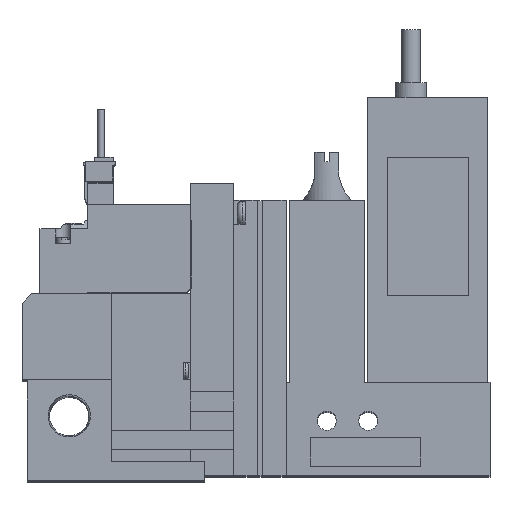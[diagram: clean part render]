
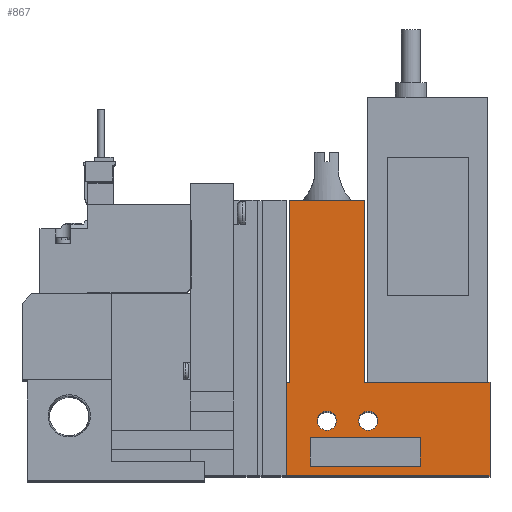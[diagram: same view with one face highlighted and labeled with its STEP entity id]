
A CAD part, top view. The second image highlights one B-rep face of the part: STEP entity #867.
In plain terms, the highlighted planar face has unit normal (0, 0, 1).
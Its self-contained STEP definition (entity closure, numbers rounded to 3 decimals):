
#867=ADVANCED_FACE('',(#1737,#1738,#1739,#1740),#1741,.T.);
#1737=FACE_BOUND('',#3004,.T.);
#1738=FACE_BOUND('',#3005,.T.);
#1739=FACE_BOUND('',#3006,.T.);
#1740=FACE_OUTER_BOUND('',#3007,.T.);
#1741=PLANE('',#3008);
#3004=EDGE_LOOP('',(#5994,#5995,#5996,#5997));
#3005=EDGE_LOOP('',(#5998));
#3006=EDGE_LOOP('',(#5999));
#3007=EDGE_LOOP('',(#6000,#6001,#6002,#6003,#6004,#6005,#6006,#6007));
#3008=AXIS2_PLACEMENT_3D('',#6008,#6009,#6010);
#5994=ORIENTED_EDGE('',*,*,#8552,.T.);
#5995=ORIENTED_EDGE('',*,*,#8553,.T.);
#5996=ORIENTED_EDGE('',*,*,#8554,.T.);
#5997=ORIENTED_EDGE('',*,*,#8555,.T.);
#5998=ORIENTED_EDGE('',*,*,#8556,.T.);
#5999=ORIENTED_EDGE('',*,*,#8489,.T.);
#6000=ORIENTED_EDGE('',*,*,#8557,.F.);
#6001=ORIENTED_EDGE('',*,*,#8558,.T.);
#6002=ORIENTED_EDGE('',*,*,#8559,.T.);
#6003=ORIENTED_EDGE('',*,*,#8560,.T.);
#6004=ORIENTED_EDGE('',*,*,#8561,.T.);
#6005=ORIENTED_EDGE('',*,*,#8562,.T.);
#6006=ORIENTED_EDGE('',*,*,#8450,.T.);
#6007=ORIENTED_EDGE('',*,*,#8478,.T.);
#6008=CARTESIAN_POINT('',(0.0,0.0,10.0));
#6009=DIRECTION('',(0.0,0.0,1.0));
#6010=DIRECTION('',(1.0,0.0,0.0));
#8450=EDGE_CURVE('',#10192,#10190,#10193,.T.);
#8478=EDGE_CURVE('',#10190,#10240,#10242,.T.);
#8489=EDGE_CURVE('',#10260,#10260,#10261,.T.);
#8552=EDGE_CURVE('',#10374,#10375,#10376,.T.);
#8553=EDGE_CURVE('',#10375,#10377,#10378,.T.);
#8554=EDGE_CURVE('',#10377,#10379,#10380,.T.);
#8555=EDGE_CURVE('',#10379,#10374,#10381,.T.);
#8556=EDGE_CURVE('',#10382,#10382,#10383,.T.);
#8557=EDGE_CURVE('',#10384,#10240,#10385,.T.);
#8558=EDGE_CURVE('',#10384,#10386,#10387,.T.);
#8559=EDGE_CURVE('',#10386,#10388,#10389,.T.);
#8560=EDGE_CURVE('',#10388,#10390,#10391,.T.);
#8561=EDGE_CURVE('',#10390,#10392,#10393,.T.);
#8562=EDGE_CURVE('',#10392,#10192,#10394,.T.);
#10190=VERTEX_POINT('',#13001);
#10192=VERTEX_POINT('',#13004);
#10193=LINE('',#13005,#13006);
#10240=VERTEX_POINT('',#13079);
#10242=LINE('',#13082,#13083);
#10260=VERTEX_POINT('',#13110);
#10261=CIRCLE('',#13111,2.0);
#10374=VERTEX_POINT('',#13281);
#10375=VERTEX_POINT('',#13282);
#10376=LINE('',#13283,#13284);
#10377=VERTEX_POINT('',#13285);
#10378=LINE('',#13286,#13287);
#10379=VERTEX_POINT('',#13288);
#10380=LINE('',#13289,#13290);
#10381=LINE('',#13291,#13292);
#10382=VERTEX_POINT('',#13293);
#10383=CIRCLE('',#13294,2.0);
#10384=VERTEX_POINT('',#13295);
#10385=LINE('',#13296,#13297);
#10386=VERTEX_POINT('',#13298);
#10387=LINE('',#13299,#13300);
#10388=VERTEX_POINT('',#13301);
#10389=LINE('',#13302,#13303);
#10390=VERTEX_POINT('',#13304);
#10391=LINE('',#13305,#13306);
#10392=VERTEX_POINT('',#13307);
#10393=LINE('',#13308,#13309);
#10394=LINE('',#13310,#13311);
#13001=CARTESIAN_POINT('',(55.75,19.5,10.0));
#13004=CARTESIAN_POINT('',(55.75,57.5,10.0));
#13005=CARTESIAN_POINT('',(55.75,57.5,10.0));
#13006=VECTOR('',#15577,1.0);
#13079=CARTESIAN_POINT('',(55.1,19.5,10.0));
#13082=CARTESIAN_POINT('',(55.75,19.5,10.0));
#13083=VECTOR('',#15605,1.0);
#13110=CARTESIAN_POINT('',(74.2,11.5,10.0));
#13111=AXIS2_PLACEMENT_3D('',#15618,#15619,#15620);
#13281=CARTESIAN_POINT('',(60.1,2.0,10.0));
#13282=CARTESIAN_POINT('',(60.1,8.0,10.0));
#13283=CARTESIAN_POINT('',(60.1,0.0,10.0));
#13284=VECTOR('',#15693,1.0);
#13285=CARTESIAN_POINT('',(83.1,8.0,10.0));
#13286=CARTESIAN_POINT('',(0.0,8.0,10.0));
#13287=VECTOR('',#15694,1.0);
#13288=CARTESIAN_POINT('',(83.1,2.0,10.0));
#13289=CARTESIAN_POINT('',(83.1,0.0,10.0));
#13290=VECTOR('',#15695,1.0);
#13291=CARTESIAN_POINT('',(0.0,2.0,10.0));
#13292=VECTOR('',#15696,1.0);
#13293=CARTESIAN_POINT('',(65.6,11.5,10.0));
#13294=AXIS2_PLACEMENT_3D('',#15697,#15698,#15699);
#13295=CARTESIAN_POINT('',(55.1,0.0,10.0));
#13296=CARTESIAN_POINT('',(55.1,0.0,10.0));
#13297=VECTOR('',#15700,1.0);
#13298=CARTESIAN_POINT('',(97.6,0.0,10.0));
#13299=CARTESIAN_POINT('',(18.6,0.0,10.0));
#13300=VECTOR('',#15701,1.0);
#13301=CARTESIAN_POINT('',(97.6,19.5,10.0));
#13302=CARTESIAN_POINT('',(97.6,0.0,10.0));
#13303=VECTOR('',#15702,1.0);
#13304=CARTESIAN_POINT('',(71.45,19.5,10.0));
#13305=CARTESIAN_POINT('',(97.6,19.5,10.0));
#13306=VECTOR('',#15703,1.0);
#13307=CARTESIAN_POINT('',(71.45,57.5,10.0));
#13308=CARTESIAN_POINT('',(71.45,19.5,10.0));
#13309=VECTOR('',#15704,1.0);
#13310=CARTESIAN_POINT('',(71.45,57.5,10.0));
#13311=VECTOR('',#15705,1.0);
#15577=DIRECTION('',(0.0,-1.0,0.0));
#15605=DIRECTION('',(-1.0,0.0,0.0));
#15618=CARTESIAN_POINT('',(72.2,11.5,10.0));
#15619=DIRECTION('',(0.0,0.0,-1.0));
#15620=DIRECTION('',(1.0,0.0,0.0));
#15693=DIRECTION('',(0.0,1.0,0.0));
#15694=DIRECTION('',(1.0,0.0,0.0));
#15695=DIRECTION('',(0.0,-1.0,0.0));
#15696=DIRECTION('',(-1.0,0.0,0.0));
#15697=CARTESIAN_POINT('',(63.6,11.5,10.0));
#15698=DIRECTION('',(0.0,0.0,-1.0));
#15699=DIRECTION('',(1.0,0.0,0.0));
#15700=DIRECTION('',(0.0,1.0,0.0));
#15701=DIRECTION('',(1.0,0.0,0.0));
#15702=DIRECTION('',(0.0,1.0,0.0));
#15703=DIRECTION('',(-1.0,0.0,0.0));
#15704=DIRECTION('',(0.0,1.0,0.0));
#15705=DIRECTION('',(-1.0,0.0,0.0));
